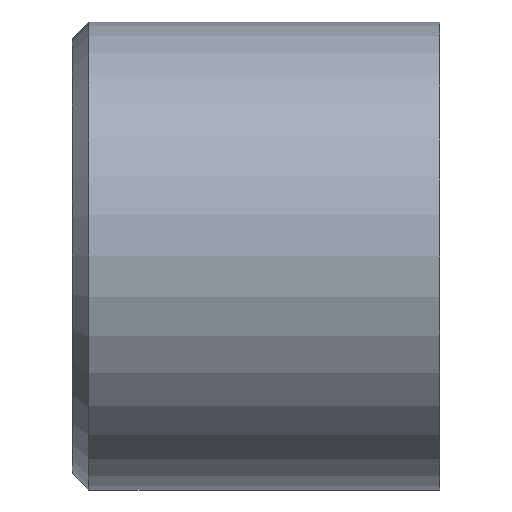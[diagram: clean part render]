
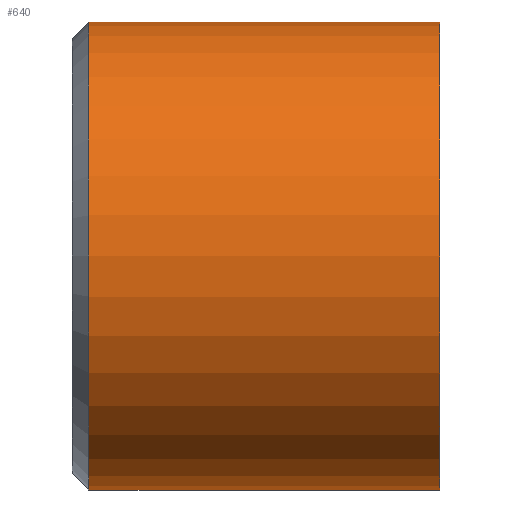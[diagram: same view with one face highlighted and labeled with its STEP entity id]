
A CAD part, left-side view. The second image highlights one B-rep face of the part: STEP entity #640.
In plain terms, the highlighted cylindrical face has radius 14 mm (diameter 28 mm), a partial arc.
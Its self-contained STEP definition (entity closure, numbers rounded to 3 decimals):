
#14 = DIRECTION ( 'NONE',  ( 0., -1., 0. ) ) ;
#30 = DIRECTION ( 'NONE',  ( 0., 0., -1. ) ) ;
#37 = EDGE_CURVE ( 'NONE', #111, #287, #471, .T. ) ;
#59 = DIRECTION ( 'NONE',  ( 0., 0., -1. ) ) ;
#69 = CARTESIAN_POINT ( 'NONE',  ( 0., 0., 14. ) ) ;
#91 = ORIENTED_EDGE ( 'NONE', *, *, #211, .T. ) ;
#111 = VERTEX_POINT ( 'NONE', #494 ) ;
#113 = VERTEX_POINT ( 'NONE', #535 ) ;
#118 = FACE_OUTER_BOUND ( 'NONE', #255, .T. ) ;
#122 = ORIENTED_EDGE ( 'NONE', *, *, #345, .F. ) ;
#133 = DIRECTION ( 'NONE',  ( 0., -1., 0. ) ) ;
#149 = VECTOR ( 'NONE', #14, 1000. ) ;
#211 = EDGE_CURVE ( 'NONE', #287, #113, #423, .T. ) ;
#229 = CYLINDRICAL_SURFACE ( 'NONE', #500, 14. ) ;
#239 = ORIENTED_EDGE ( 'NONE', *, *, #371, .F. ) ;
#255 = EDGE_LOOP ( 'NONE', ( #122, #269, #91, #239 ) ) ;
#257 = CARTESIAN_POINT ( 'NONE',  ( 0., 0., -14. ) ) ;
#269 = ORIENTED_EDGE ( 'NONE', *, *, #37, .T. ) ;
#287 = VERTEX_POINT ( 'NONE', #515 ) ;
#321 = CARTESIAN_POINT ( 'NONE',  ( 0., 0., 14. ) ) ;
#328 = CARTESIAN_POINT ( 'NONE',  ( 0., 0., 0. ) ) ;
#345 = EDGE_CURVE ( 'NONE', #111, #493, #549, .T. ) ;
#371 = EDGE_CURVE ( 'NONE', #493, #113, #440, .T. ) ;
#393 = DIRECTION ( 'NONE',  ( 0., 0., 1. ) ) ;
#403 = DIRECTION ( 'NONE',  ( 0., -1., 0. ) ) ;
#423 = LINE ( 'NONE', #257, #441 ) ;
#440 = CIRCLE ( 'NONE', #514, 14. ) ;
#441 = VECTOR ( 'NONE', #403, 1000. ) ;
#462 = CARTESIAN_POINT ( 'NONE',  ( 0., 0., 0. ) ) ;
#471 = CIRCLE ( 'NONE', #575, 14. ) ;
#492 = CARTESIAN_POINT ( 'NONE',  ( 0., 21., 0. ) ) ;
#493 = VERTEX_POINT ( 'NONE', #321 ) ;
#494 = CARTESIAN_POINT ( 'NONE',  ( 0., 21., 14. ) ) ;
#500 = AXIS2_PLACEMENT_3D ( 'NONE', #462, #560, #59 ) ;
#514 = AXIS2_PLACEMENT_3D ( 'NONE', #328, #133, #30 ) ;
#515 = CARTESIAN_POINT ( 'NONE',  ( 0., 21., -14. ) ) ;
#535 = CARTESIAN_POINT ( 'NONE',  ( 0., 0., -14. ) ) ;
#546 = DIRECTION ( 'NONE',  ( 0., -1., 0. ) ) ;
#549 = LINE ( 'NONE', #69, #149 ) ;
#560 = DIRECTION ( 'NONE',  ( 0., -1., 0. ) ) ;
#575 = AXIS2_PLACEMENT_3D ( 'NONE', #492, #546, #393 ) ;
#640 = ADVANCED_FACE ( 'NONE', ( #118 ), #229, .T. ) ;
